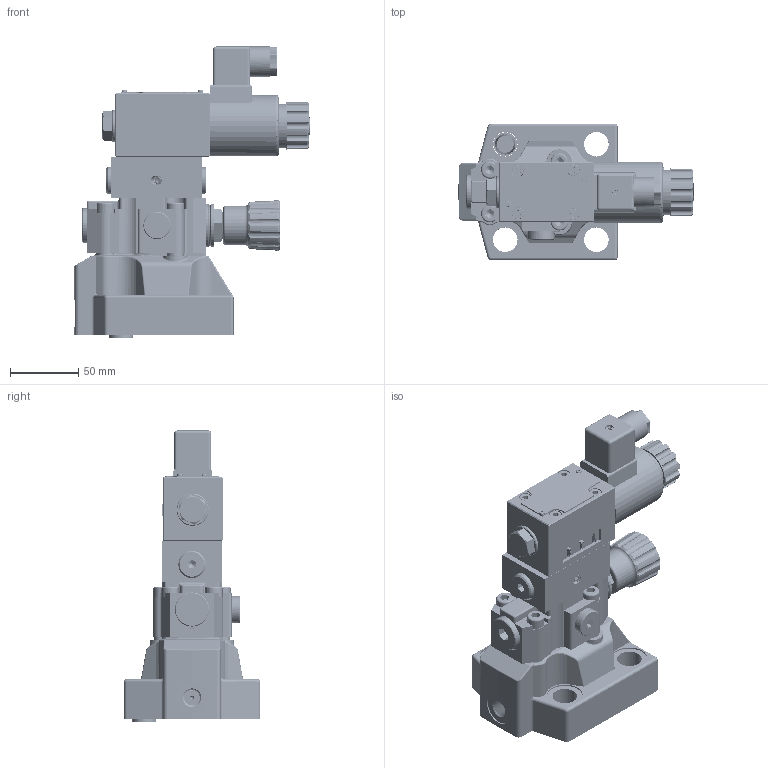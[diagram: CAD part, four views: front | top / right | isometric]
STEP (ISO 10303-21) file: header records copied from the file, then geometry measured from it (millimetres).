
FILE_DESCRIPTION(/* description */ (''),/* implementation_level */ '2;1');
FILE_NAME(/* name */ 'DBW20-50...S...R12.stp',/* time_stamp */ '2024-03-25T17:49:07+08:00',/* author */ (''),/* organization */ (''),/* preprocessor_version */ 'ST-DEVELOPER v16.7',/* originating_system */ 'SIEMENS PLM Software NX 12.0',/* authorisation */ '');
FILE_SCHEMA (('AUTOMOTIVE_DESIGN { 1 0 10303 214 3 1 1 1 }'));
Products named in the file (1): DBW20-50...S...R12
Bounding box: 172.2 x 100 x 213 mm (x, y, z)
Volume: 242041 mm3; surface area: 283920.9 mm2
Topology: 84 solids, 90 shells, 2787 faces, 6939 edges, 4402 vertices
Faces by surface type: cylinder 1094, plane 1035, cone 279, bspline 212, torus 137, sphere 30
Full cylindrical faces by diameter (mm): 0.8 x2, 1 x4, 1.2 x3, 1.5 x5, 1.8 x6, 2 x9, 2.55 x20, 3 x52, 3.3 x9, 3.4 x12, 3.5 x1, 4 x5, 4.2 x10, 4.3 x48, 4.4 x2, 4.5 x1, 4.6 x2, 5 x150, 5.3 x4, 5.4 x5, 5.5 x3, 6 x10, 6.5 x1, 7 x14, 7.4 x1, 7.9 x1, 8 x15, 8.1 x1, 8.28 x1, 8.3 x4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
Entity records: 256804 total; most frequent: CARTESIAN_POINT 204481, DIRECTION 10272, ORIENTED_EDGE 9966, EDGE_CURVE 4983, AXIS2_PLACEMENT_3D 4092, VERTEX_POINT 3484, EDGE_LOOP 3359, ADVANCED_FACE 2442
